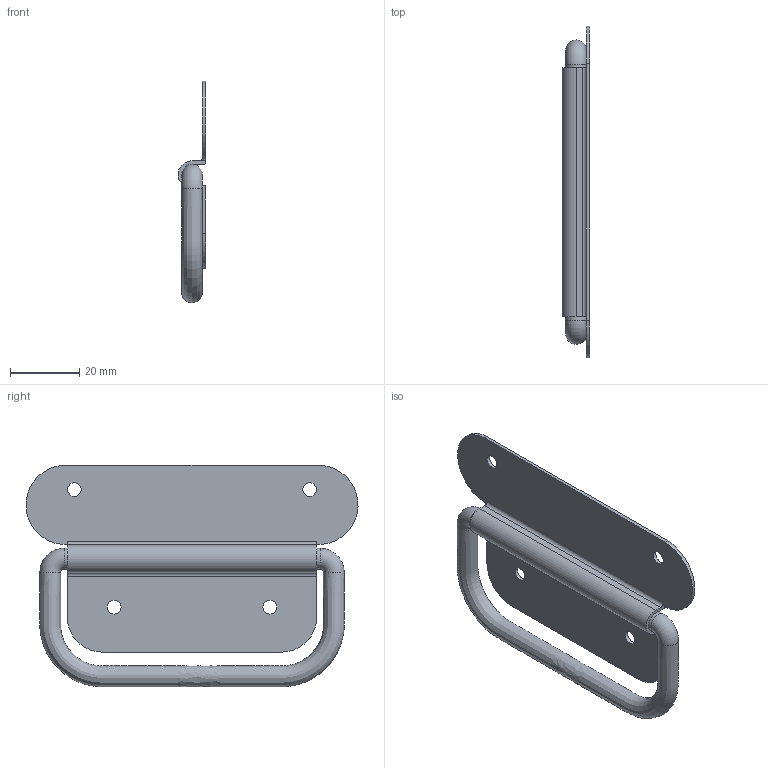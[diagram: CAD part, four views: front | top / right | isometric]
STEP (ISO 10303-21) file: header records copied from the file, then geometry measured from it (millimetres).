
FILE_DESCRIPTION(/* description */ ('Unknown'),/* implementation_level */ '2;1');
FILE_NAME(/* name */ '6457.02.04_',/* time_stamp */ '2019-12-02T14:55:38+01:00',/* author */ ('Unknown'),/* organization */ ('Unknown'),/* preprocessor_version */ 'ST-DEVELOPER v16.7',/* originating_system */ 'DEX',/* authorisation */ $);
FILE_SCHEMA (('AUTOMOTIVE_DESIGN {1 0 10303 214 3 1 1}'));
Length unit declared in the file: millimetre
Products named in the file (3): 6457.02.04_; TEIL1; 6457.02.04
Assembly tree (2 placements, depth 2):
  6457.02.04_
    TEIL1
    6457.02.04
Bounding box: 8 x 95.97 x 64 mm (x, y, z)
Volume: 9737 mm3; surface area: 13498 mm2
Topology: 2 solids, 2 shells, 33 faces, 83 edges, 54 vertices
Faces by surface type: cylinder 16, plane 14, torus 2, bspline 1
Full cylindrical faces by diameter (mm): 4 x4, 6 x2
Entity records: 2997 total; most frequent: CARTESIAN_POINT 2118, DIRECTION 178, ORIENTED_EDGE 148, EDGE_CURVE 74, AXIS2_PLACEMENT_3D 69, VERTEX_POINT 54, EDGE_LOOP 50, FACE_BOUND 50
